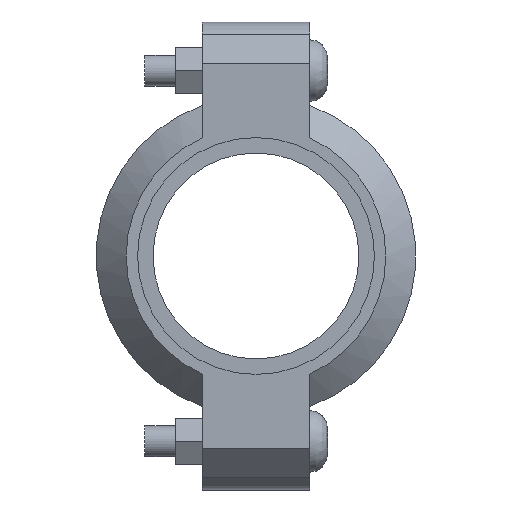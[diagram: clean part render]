
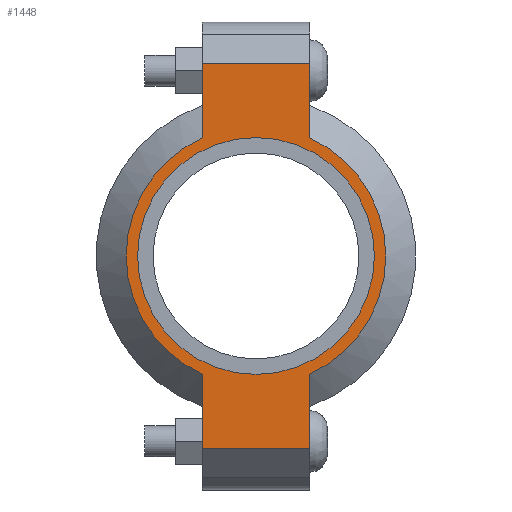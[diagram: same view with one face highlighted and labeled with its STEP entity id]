
A CAD part, left-side view. The second image highlights one B-rep face of the part: STEP entity #1448.
In plain terms, the highlighted planar face has unit normal (-1, 0, 0) as drawn and (0, 0, 1) by its records, which use the part's own axes.
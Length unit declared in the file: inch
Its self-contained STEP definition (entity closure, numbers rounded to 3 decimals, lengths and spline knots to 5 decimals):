
#128=LINE('',#2493,#219);
#136=LINE('',#2529,#227);
#143=LINE('',#2550,#234);
#152=LINE('',#2582,#243);
#153=LINE('',#2586,#244);
#154=LINE('',#2588,#245);
#219=VECTOR('',#2019,0.3937);
#227=VECTOR('',#2035,0.3937);
#234=VECTOR('',#2054,0.3937);
#243=VECTOR('',#2079,0.3937);
#244=VECTOR('',#2084,0.3937);
#245=VECTOR('',#2085,0.3937);
#297=FACE_BOUND('',#457,.T.);
#361=FACE_OUTER_BOUND('',#456,.T.);
#456=EDGE_LOOP('',(#1183,#1184,#1185,#1186,#1187,#1188,#1189,#1190));
#457=EDGE_LOOP('',(#1191));
#554=CIRCLE('',#1691,1.575);
#555=CIRCLE('',#1692,1.575);
#556=CIRCLE('',#1693,1.4375);
#659=VERTEX_POINT('',#2490);
#660=VERTEX_POINT('',#2492);
#671=VERTEX_POINT('',#2524);
#672=VERTEX_POINT('',#2528);
#679=VERTEX_POINT('',#2547);
#680=VERTEX_POINT('',#2549);
#690=VERTEX_POINT('',#2585);
#691=VERTEX_POINT('',#2587);
#692=VERTEX_POINT('',#2590);
#823=EDGE_CURVE('',#660,#659,#128,.T.);
#837=EDGE_CURVE('',#672,#671,#136,.T.);
#847=EDGE_CURVE('',#680,#679,#143,.T.);
#862=EDGE_CURVE('',#672,#659,#152,.T.);
#863=EDGE_CURVE('',#671,#680,#554,.T.);
#864=EDGE_CURVE('',#690,#679,#153,.T.);
#865=EDGE_CURVE('',#690,#691,#154,.T.);
#866=EDGE_CURVE('',#691,#660,#555,.T.);
#867=EDGE_CURVE('',#692,#692,#556,.T.);
#1183=ORIENTED_EDGE('',*,*,#862,.F.);
#1184=ORIENTED_EDGE('',*,*,#837,.T.);
#1185=ORIENTED_EDGE('',*,*,#863,.T.);
#1186=ORIENTED_EDGE('',*,*,#847,.T.);
#1187=ORIENTED_EDGE('',*,*,#864,.F.);
#1188=ORIENTED_EDGE('',*,*,#865,.T.);
#1189=ORIENTED_EDGE('',*,*,#866,.T.);
#1190=ORIENTED_EDGE('',*,*,#823,.T.);
#1191=ORIENTED_EDGE('',*,*,#867,.T.);
#1302=PLANE('',#1690);
#1448=ADVANCED_FACE('',(#361,#297),#1302,.T.);
#1690=AXIS2_PLACEMENT_3D('',#2583,#2080,#2081);
#1691=AXIS2_PLACEMENT_3D('',#2584,#2082,#2083);
#1692=AXIS2_PLACEMENT_3D('',#2589,#2086,#2087);
#1693=AXIS2_PLACEMENT_3D('',#2591,#2088,#2089);
#2019=DIRECTION('',(-1.,0.,0.));
#2035=DIRECTION('',(1.,0.,0.));
#2054=DIRECTION('',(1.,0.,0.));
#2079=DIRECTION('',(0.,1.,0.));
#2080=DIRECTION('center_axis',(0.,0.,1.));
#2081=DIRECTION('ref_axis',(1.,0.,0.));
#2082=DIRECTION('center_axis',(0.,0.,1.));
#2083=DIRECTION('ref_axis',(-1.,0.,0.));
#2084=DIRECTION('',(0.,-1.,0.));
#2085=DIRECTION('',(-1.,0.,0.));
#2086=DIRECTION('center_axis',(0.,0.,1.));
#2087=DIRECTION('ref_axis',(-1.,0.,0.));
#2088=DIRECTION('center_axis',(0.,0.,-1.));
#2089=DIRECTION('ref_axis',(-1.,0.,0.));
#2490=CARTESIAN_POINT('',(-2.34,0.65,0.94));
#2492=CARTESIAN_POINT('',(-1.43462,0.65,0.94));
#2493=CARTESIAN_POINT('',(-2.84,0.65,0.94));
#2524=CARTESIAN_POINT('',(-1.43462,-0.65,0.94));
#2528=CARTESIAN_POINT('',(-2.34,-0.65,0.94));
#2529=CARTESIAN_POINT('',(2.84,-0.65,0.94));
#2547=CARTESIAN_POINT('',(2.34,-0.65,0.94));
#2549=CARTESIAN_POINT('',(1.43462,-0.65,0.94));
#2550=CARTESIAN_POINT('',(2.84,-0.65,0.94));
#2582=CARTESIAN_POINT('',(-2.34,0.325,0.94));
#2583=CARTESIAN_POINT('Origin',(0.,0.,
0.94));
#2584=CARTESIAN_POINT('Origin',(0.,0.,0.94));
#2585=CARTESIAN_POINT('',(2.34,0.65,0.94));
#2586=CARTESIAN_POINT('',(2.34,-0.325,0.94));
#2587=CARTESIAN_POINT('',(1.43462,0.65,0.94));
#2588=CARTESIAN_POINT('',(-2.84,0.65,0.94));
#2589=CARTESIAN_POINT('Origin',(0.,0.,0.94));
#2590=CARTESIAN_POINT('',(1.4375,0.,0.94));
#2591=CARTESIAN_POINT('Origin',(0.,0.,0.94));
